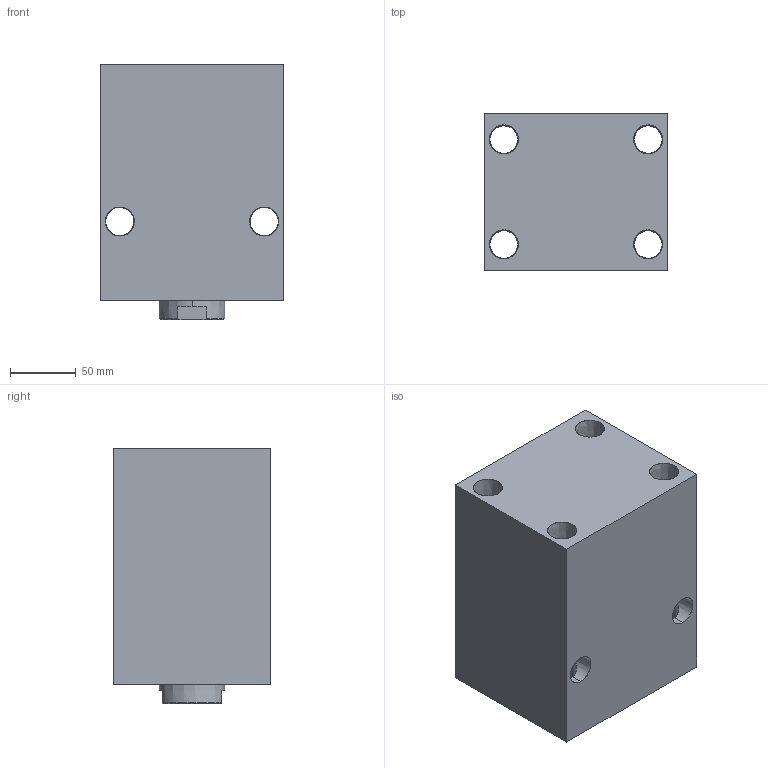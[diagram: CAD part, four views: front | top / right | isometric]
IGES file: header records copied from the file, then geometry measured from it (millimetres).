
Start section: SolidWorks IGES file using analytic representation for surfaces
Global section: file name: D:\karuppas\Clasp\3D model\Block cylinder B01C-Female thread\B01C-810F\Block cylinder B01C-810F.IGS; native system: SolidWorks 2017; preprocessor: SolidWorks 2017; author: pc; date: 220710.000728; units: millimetre
Bounding box: 140 x 120 x 195 mm (x, y, z)
Surface area: 229248.6 mm2 (no closed solid volume)
Topology: 0 solids, 0 shells, 350 faces, 5413 edges, 5407 vertices
Faces by surface type: bspline 298, revolution 52
